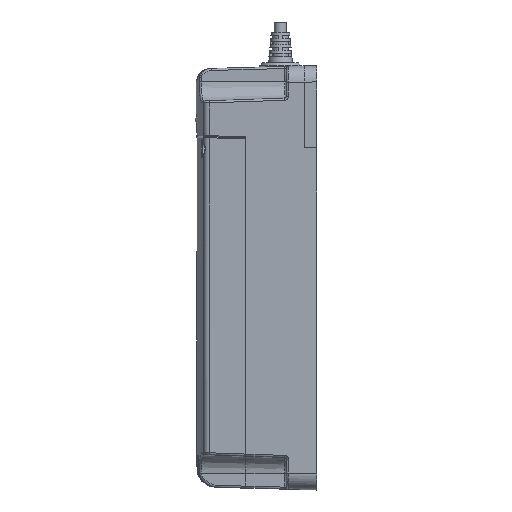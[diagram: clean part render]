
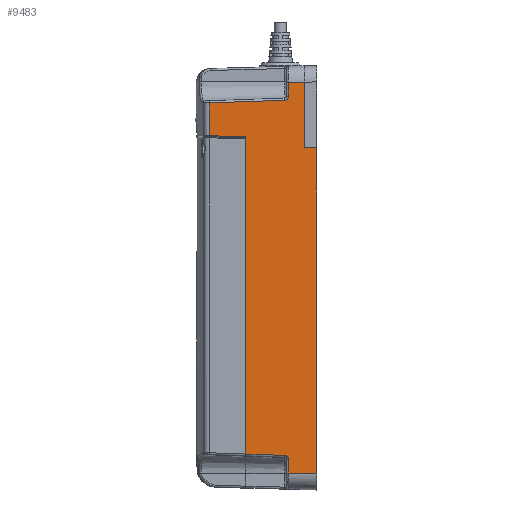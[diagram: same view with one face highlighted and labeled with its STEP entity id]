
A CAD part, left-side view. The second image highlights one B-rep face of the part: STEP entity #9483.
In plain terms, the highlighted planar face has unit normal (-1, 0.026, 0).
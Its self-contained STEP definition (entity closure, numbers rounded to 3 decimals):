
#95 =( BOUNDED_CURVE ( )  B_SPLINE_CURVE ( 3, ( #11547, #7075, #17394, #2631 ),
 .UNSPECIFIED., .F., .T. ) 
 B_SPLINE_CURVE_WITH_KNOTS ( ( 4, 4 ),
 ( 0., 1.536 ),
 .UNSPECIFIED. ) 
 CURVE ( )  GEOMETRIC_REPRESENTATION_ITEM ( )  RATIONAL_B_SPLINE_CURVE ( ( 1., 0.813, 0.813, 1. ) ) 
 REPRESENTATION_ITEM ( '' )  );
#162 = ORIENTED_EDGE ( 'NONE', *, *, #18914, .T. ) ;
#248 = LINE ( 'NONE', #1678, #7692 ) ;
#414 = LINE ( 'NONE', #17190, #7856 ) ;
#560 = EDGE_CURVE ( 'NONE', #6109, #3958, #95, .T. ) ;
#913 = VECTOR ( 'NONE', #18449, 1000. ) ;
#917 = VERTEX_POINT ( 'NONE', #13722 ) ;
#1044 = ORIENTED_EDGE ( 'NONE', *, *, #4200, .T. ) ;
#1354 = VECTOR ( 'NONE', #16659, 1000. ) ;
#1461 = VECTOR ( 'NONE', #11420, 1000. ) ;
#1499 = VERTEX_POINT ( 'NONE', #8587 ) ;
#1571 = CARTESIAN_POINT ( 'NONE',  ( -75.482, 7.052, -87.502 ) ) ;
#1678 = CARTESIAN_POINT ( 'NONE',  ( -75.737, -2.657, -96.365 ) ) ;
#1931 = FACE_OUTER_BOUND ( 'NONE', #5236, .T. ) ;
#1942 = VECTOR ( 'NONE', #16332, 1000. ) ;
#2331 = ORIENTED_EDGE ( 'NONE', *, *, #14809, .T. ) ;
#2481 = VECTOR ( 'NONE', #8801, 1000. ) ;
#2508 = EDGE_CURVE ( 'NONE', #917, #15233, #6892, .T. ) ;
#2631 = CARTESIAN_POINT ( 'NONE',  ( -75.456, 8.043, 87.467 ) ) ;
#2944 = LINE ( 'NONE', #7310, #2481 ) ;
#3012 = CARTESIAN_POINT ( 'NONE',  ( -75.507, 6.113, -89.466 ) ) ;
#3039 = EDGE_CURVE ( 'NONE', #11386, #6963, #17723, .T. ) ;
#3045 = EDGE_CURVE ( 'NONE', #1499, #4804, #5921, .T. ) ;
#3104 = VERTEX_POINT ( 'NONE', #3012 ) ;
#3175 = DIRECTION ( 'NONE',  ( -0.026, -0.999, -0.026 ) ) ;
#3330 = PLANE ( 'NONE',  #6967 ) ;
#3349 = ORIENTED_EDGE ( 'NONE', *, *, #6287, .T. ) ;
#3958 = VERTEX_POINT ( 'NONE', #10795 ) ;
#4020 = CARTESIAN_POINT ( 'NONE',  ( -74.958, 27.087, 104.5 ) ) ;
#4200 = EDGE_CURVE ( 'NONE', #18320, #11386, #12861, .T. ) ;
#4412 = LINE ( 'NONE', #8114, #913 ) ;
#4642 = CARTESIAN_POINT ( 'NONE',  ( -75.456, 8.043, -87.467 ) ) ;
#4684 = EDGE_CURVE ( 'NONE', #4804, #11712, #12840, .T. ) ;
#4687 = ORIENTED_EDGE ( 'NONE', *, *, #560, .T. ) ;
#4804 = VERTEX_POINT ( 'NONE', #7646 ) ;
#5236 = EDGE_LOOP ( 'NONE', ( #11616, #5738, #17420, #13254, #2331, #4687, #17787, #162, #5418, #1044, #14006, #16693, #3349, #14148 ) ) ;
#5330 = LINE ( 'NONE', #7565, #8792 ) ;
#5332 = LINE ( 'NONE', #16596, #1354 ) ;
#5418 = ORIENTED_EDGE ( 'NONE', *, *, #5811, .T. ) ;
#5738 = ORIENTED_EDGE ( 'NONE', *, *, #4684, .T. ) ;
#5811 = EDGE_CURVE ( 'NONE', #9627, #18320, #4412, .T. ) ;
#5921 = LINE ( 'NONE', #6011, #1942 ) ;
#5992 = DIRECTION ( 'NONE',  ( 0., 0., -1. ) ) ;
#6011 = CARTESIAN_POINT ( 'NONE',  ( -75.874, -7.913, 104.5 ) ) ;
#6109 = VERTEX_POINT ( 'NONE', #10576 ) ;
#6123 = CARTESIAN_POINT ( 'NONE',  ( -75.486, 6.904, -87.507 ) ) ;
#6190 = CARTESIAN_POINT ( 'NONE',  ( -75.507, 6.113, -89.466 ) ) ;
#6287 = EDGE_CURVE ( 'NONE', #3104, #13748, #5332, .T. ) ;
#6328 = DIRECTION ( 'NONE',  ( -0.026, -1., 0. ) ) ;
#6420 = EDGE_CURVE ( 'NONE', #3958, #18066, #414, .T. ) ;
#6892 = LINE ( 'NONE', #17706, #9899 ) ;
#6963 = VERTEX_POINT ( 'NONE', #12859 ) ;
#6967 = AXIS2_PLACEMENT_3D ( 'NONE', #13708, #15179, #6328 ) ;
#7075 = CARTESIAN_POINT ( 'NONE',  ( -75.507, 6.113, 88.326 ) ) ;
#7310 = CARTESIAN_POINT ( 'NONE',  ( -74.485, 45.138, 104.5 ) ) ;
#7440 = DIRECTION ( 'NONE',  ( -0.026, -0.999, -0.035 ) ) ;
#7565 = CARTESIAN_POINT ( 'NONE',  ( -75.717, -1.913, 104.5 ) ) ;
#7646 = CARTESIAN_POINT ( 'NONE',  ( -75.874, -7.913, 64. ) ) ;
#7692 = VECTOR ( 'NONE', #3175, 1000. ) ;
#7856 = VECTOR ( 'NONE', #15712, 1000. ) ;
#8114 = CARTESIAN_POINT ( 'NONE',  ( -75.85, -6.974, 68.608 ) ) ;
#8587 = CARTESIAN_POINT ( 'NONE',  ( -75.874, -7.913, -96.503 ) ) ;
#8792 = VECTOR ( 'NONE', #9054, 1000. ) ;
#8801 = DIRECTION ( 'NONE',  ( 0., 0., -1. ) ) ;
#8863 = DIRECTION ( 'NONE',  ( 0.026, 0.999, -0.026 ) ) ;
#9054 = DIRECTION ( 'NONE',  ( 0., 0., -1. ) ) ;
#9483 = ADVANCED_FACE ( 'NONE', ( #1931 ), #3330, .T. ) ;
#9627 = VERTEX_POINT ( 'NONE', #15561 ) ;
#9899 = VECTOR ( 'NONE', #8863, 1000. ) ;
#10342 = VECTOR ( 'NONE', #5992, 1000. ) ;
#10576 = CARTESIAN_POINT ( 'NONE',  ( -75.507, 6.113, 89.466 ) ) ;
#10742 = EDGE_CURVE ( 'NONE', #13748, #1499, #248, .T. ) ;
#10795 = CARTESIAN_POINT ( 'NONE',  ( -75.456, 8.043, 87.467 ) ) ;
#11233 = CARTESIAN_POINT ( 'NONE',  ( -74.485, 45.138, 86.172 ) ) ;
#11386 = VERTEX_POINT ( 'NONE', #16794 ) ;
#11420 = DIRECTION ( 'NONE',  ( 0., 0., -1. ) ) ;
#11547 = CARTESIAN_POINT ( 'NONE',  ( -75.507, 6.113, 89.466 ) ) ;
#11616 = ORIENTED_EDGE ( 'NONE', *, *, #3045, .T. ) ;
#11712 = VERTEX_POINT ( 'NONE', #16191 ) ;
#12353 = VECTOR ( 'NONE', #18565, 1000. ) ;
#12510 = CARTESIAN_POINT ( 'NONE',  ( -75.507, 6.113, 96.135 ) ) ;
#12840 = LINE ( 'NONE', #17071, #12353 ) ;
#12856 = EDGE_CURVE ( 'NONE', #917, #11712, #5330, .T. ) ;
#12859 = CARTESIAN_POINT ( 'NONE',  ( -75.456, 8.043, -87.467 ) ) ;
#12861 = LINE ( 'NONE', #4020, #1461 ) ;
#13254 = ORIENTED_EDGE ( 'NONE', *, *, #2508, .T. ) ;
#13708 = CARTESIAN_POINT ( 'NONE',  ( -75.874, -7.913, 104.5 ) ) ;
#13722 = CARTESIAN_POINT ( 'NONE',  ( -75.717, -1.913, 96.346 ) ) ;
#13748 = VERTEX_POINT ( 'NONE', #13809 ) ;
#13795 = VECTOR ( 'NONE', #7440, 1000. ) ;
#13809 = CARTESIAN_POINT ( 'NONE',  ( -75.507, 6.113, -96.135 ) ) ;
#14006 = ORIENTED_EDGE ( 'NONE', *, *, #3039, .T. ) ;
#14148 = ORIENTED_EDGE ( 'NONE', *, *, #10742, .T. ) ;
#14809 = EDGE_CURVE ( 'NONE', #15233, #6109, #18178, .T. ) ;
#15033 = CARTESIAN_POINT ( 'NONE',  ( -75.507, 6.113, -88.326 ) ) ;
#15179 = DIRECTION ( 'NONE',  ( -1., 0.026, 0. ) ) ;
#15233 = VERTEX_POINT ( 'NONE', #12510 ) ;
#15561 = CARTESIAN_POINT ( 'NONE',  ( -74.485, 45.138, 69.973 ) ) ;
#15712 = DIRECTION ( 'NONE',  ( 0.026, 0.999, -0.035 ) ) ;
#16191 = CARTESIAN_POINT ( 'NONE',  ( -75.717, -1.913, 64. ) ) ;
#16332 = DIRECTION ( 'NONE',  ( 0., 0., 1. ) ) ;
#16596 = CARTESIAN_POINT ( 'NONE',  ( -75.507, 6.113, -96.11 ) ) ;
#16659 = DIRECTION ( 'NONE',  ( 0., 0., -1. ) ) ;
#16693 = ORIENTED_EDGE ( 'NONE', *, *, #17676, .T. ) ;
#16794 = CARTESIAN_POINT ( 'NONE',  ( -74.958, 27.087, -86.802 ) ) ;
#17071 = CARTESIAN_POINT ( 'NONE',  ( -75.874, -7.913, 64. ) ) ;
#17190 = CARTESIAN_POINT ( 'NONE',  ( -74.486, 45.103, 86.173 ) ) ;
#17394 = CARTESIAN_POINT ( 'NONE',  ( -75.486, 6.904, 87.507 ) ) ;
#17420 = ORIENTED_EDGE ( 'NONE', *, *, #12856, .F. ) ;
#17676 = EDGE_CURVE ( 'NONE', #6963, #3104, #18582, .T. ) ;
#17706 = CARTESIAN_POINT ( 'NONE',  ( -75.88, -8.122, 96.508 ) ) ;
#17723 = LINE ( 'NONE', #1571, #13795 ) ;
#17733 = CARTESIAN_POINT ( 'NONE',  ( -74.958, 27.087, 69.5 ) ) ;
#17787 = ORIENTED_EDGE ( 'NONE', *, *, #6420, .T. ) ;
#17874 = CARTESIAN_POINT ( 'NONE',  ( -75.507, 6.113, 87.5 ) ) ;
#18066 = VERTEX_POINT ( 'NONE', #11233 ) ;
#18178 = LINE ( 'NONE', #17874, #10342 ) ;
#18320 = VERTEX_POINT ( 'NONE', #17733 ) ;
#18449 = DIRECTION ( 'NONE',  ( -0.026, -0.999, -0.026 ) ) ;
#18565 = DIRECTION ( 'NONE',  ( 0.026, 1., 0. ) ) ;
#18582 =( BOUNDED_CURVE ( )  B_SPLINE_CURVE ( 3, ( #4642, #6123, #15033, #6190 ),
 .UNSPECIFIED., .F., .F. ) 
 B_SPLINE_CURVE_WITH_KNOTS ( ( 4, 4 ),
 ( 1.606, 3.142 ),
 .UNSPECIFIED. ) 
 CURVE ( )  GEOMETRIC_REPRESENTATION_ITEM ( )  RATIONAL_B_SPLINE_CURVE ( ( 1., 0.813, 0.813, 1. ) ) 
 REPRESENTATION_ITEM ( '' )  );
#18914 = EDGE_CURVE ( 'NONE', #18066, #9627, #2944, .T. ) ;
